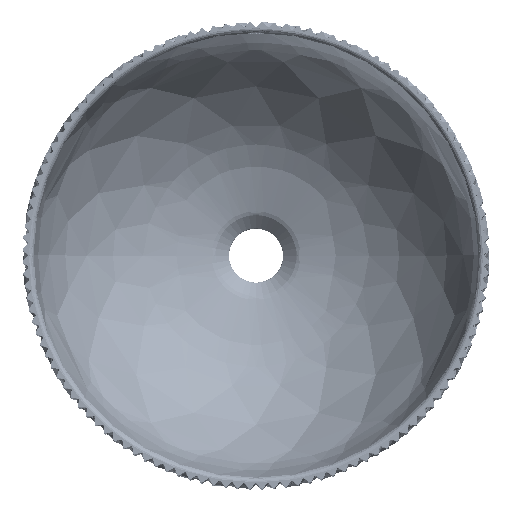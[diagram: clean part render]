
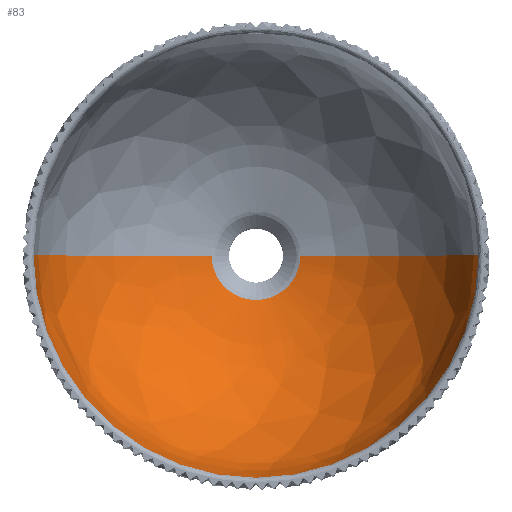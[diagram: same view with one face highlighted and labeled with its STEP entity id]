
A CAD part, top view. The second image highlights one B-rep face of the part: STEP entity #83.
In plain terms, the highlighted free-form (B-spline) face has degree [2, 2] with [3, 5] control points.
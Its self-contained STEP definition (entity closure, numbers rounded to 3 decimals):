
#83=ADVANCED_FACE('',(#293),#3345,.T.);
#293=FACE_OUTER_BOUND('',#509,.T.);
#509=EDGE_LOOP('',(#854,#855,#856,#857));
#854=ORIENTED_EDGE('',*,*,#2139,.T.);
#855=ORIENTED_EDGE('',*,*,#1837,.T.);
#856=ORIENTED_EDGE('',*,*,#2140,.F.);
#857=ORIENTED_EDGE('',*,*,#2138,.F.);
#1837=EDGE_CURVE('',#2986,#2983,#2380,.T.);
#2138=EDGE_CURVE('',#3174,#3175,#2437,.T.);
#2139=EDGE_CURVE('',#3174,#2986,#2438,.T.);
#2140=EDGE_CURVE('',#3175,#2983,#2439,.T.);
#2380=TRIMMED_CURVE($,#2491,(#123584),(#123585),.T.,.CARTESIAN.);
#2437=TRIMMED_CURVE($,#2548,(#128612),(#128613),.T.,.CARTESIAN.);
#2438=TRIMMED_CURVE($,#2549,(#128615),(#128616),.T.,.CARTESIAN.);
#2439=TRIMMED_CURVE($,#2550,(#128618),(#128619),.T.,.CARTESIAN.);
#2491=CIRCLE('',#3675,190.065);
#2548=CIRCLE('',#3732,190.065);
#2549=CIRCLE('',#3733,37.86);
#2550=CIRCLE('',#3734,189.862);
#2983=VERTEX_POINT('',#121660);
#2986=VERTEX_POINT('',#121663);
#3174=VERTEX_POINT('',#121851);
#3175=VERTEX_POINT('',#121852);
#3345=(
BOUNDED_SURFACE()
B_SPLINE_SURFACE(2,2,((#62097,#62098,#62099,#62100,#62101),(#62102,#62103,
#62104,#62105,#62106),(#62107,#62108,#62109,#62110,#62111)),
 .UNSPECIFIED.,.F.,.F.,.F.)
B_SPLINE_SURFACE_WITH_KNOTS((3,3),(3,2,3),(936.877,1190.399),
(0.,298.234,596.468),.UNSPECIFIED.)
GEOMETRIC_REPRESENTATION_ITEM()
RATIONAL_B_SPLINE_SURFACE(((1.,0.707,1.,0.707,1.),
(0.786,0.556,0.786,0.556,
0.786),(1.,0.707,1.,0.707,1.)))
REPRESENTATION_ITEM('')
SURFACE()
);
#3675=AXIS2_PLACEMENT_3D($,#123583,#3919,#3920);
#3732=AXIS2_PLACEMENT_3D($,#128611,#4033,#4034);
#3733=AXIS2_PLACEMENT_3D($,#128614,#4035,#4036);
#3734=AXIS2_PLACEMENT_3D($,#128617,#4037,#4038);
#3919=DIRECTION('',(0.,1.,0.));
#3920=DIRECTION('',(-0.199,0.,-0.98));
#4033=DIRECTION('',(0.,-1.,0.));
#4034=DIRECTION('',(0.199,0.,-0.98));
#4035=DIRECTION('',(0.,0.,-1.));
#4036=DIRECTION('',(1.,0.,0.));
#4037=DIRECTION('',(0.,0.,-1.));
#4038=DIRECTION('',(1.,0.,0.));
#62097=CARTESIAN_POINT('',(28729.386,296.977,-12139.048));
#62098=CARTESIAN_POINT('',(28729.386,260.969,-12139.048));
#62099=CARTESIAN_POINT('',(28765.394,260.969,-12139.048));
#62100=CARTESIAN_POINT('',(28801.402,260.969,-12139.048));
#62101=CARTESIAN_POINT('',(28801.402,296.977,-12139.048));
#62102=CARTESIAN_POINT('',(28582.461,296.977,-12110.699));
#62103=CARTESIAN_POINT('',(28582.461,114.045,-12110.699));
#62104=CARTESIAN_POINT('',(28765.394,114.045,-12110.699));
#62105=CARTESIAN_POINT('',(28948.326,114.045,-12110.699));
#62106=CARTESIAN_POINT('',(28948.326,296.977,-12110.699));
#62107=CARTESIAN_POINT('',(28575.532,296.977,-11961.226));
#62108=CARTESIAN_POINT('',(28575.532,107.116,-11961.226));
#62109=CARTESIAN_POINT('',(28765.394,107.116,-11961.226));
#62110=CARTESIAN_POINT('',(28955.255,107.116,-11961.226));
#62111=CARTESIAN_POINT('',(28955.255,296.977,-11961.226));
#121660=CARTESIAN_POINT('',(28575.532,296.977,-11961.226));
#121663=CARTESIAN_POINT('',(28727.533,296.977,-12138.681));
#121851=CARTESIAN_POINT('',(28803.254,296.977,-12138.681));
#121852=CARTESIAN_POINT('',(28955.255,296.977,-11961.226));
#123583=CARTESIAN_POINT('',(28765.394,296.977,-11952.424));
#123584=CARTESIAN_POINT('',(28727.533,296.977,-12138.681));
#123585=CARTESIAN_POINT('',(28575.532,296.977,-11961.226));
#128611=CARTESIAN_POINT('',(28765.394,296.977,-11952.424));
#128612=CARTESIAN_POINT('',(28803.254,296.977,-12138.681));
#128613=CARTESIAN_POINT('',(28955.255,296.977,-11961.226));
#128614=CARTESIAN_POINT('',(28765.394,296.977,-12138.681));
#128615=CARTESIAN_POINT('',(28803.254,296.977,-12138.681));
#128616=CARTESIAN_POINT('',(28727.533,296.977,-12138.681));
#128617=CARTESIAN_POINT('',(28765.394,296.977,-11961.226));
#128618=CARTESIAN_POINT('',(28955.255,296.977,-11961.226));
#128619=CARTESIAN_POINT('',(28575.532,296.977,-11961.226));
